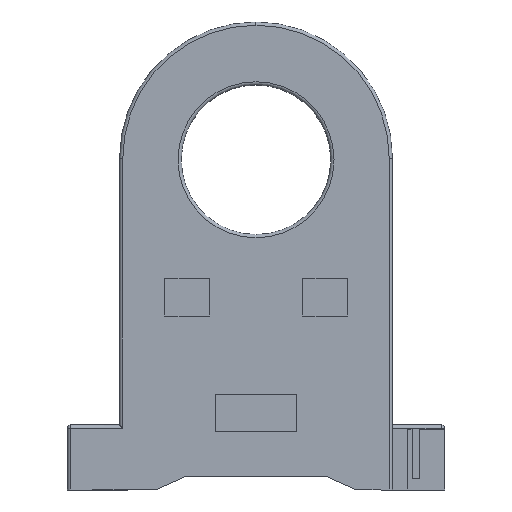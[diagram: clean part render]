
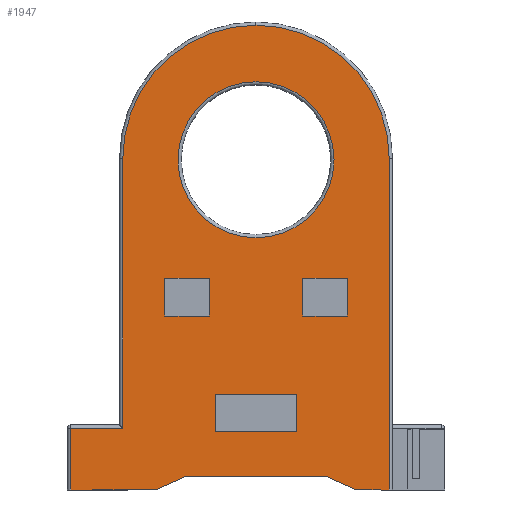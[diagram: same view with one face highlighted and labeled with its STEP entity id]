
A CAD part, left-side view. The second image highlights one B-rep face of the part: STEP entity #1947.
In plain terms, the highlighted planar face has unit normal (-1, 0, 0).
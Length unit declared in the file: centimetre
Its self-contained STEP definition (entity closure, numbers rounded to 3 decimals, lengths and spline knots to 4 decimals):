
#96=CIRCLE('',#5523,2.05);
#97=CIRCLE('',#5524,2.05);
#98=CIRCLE('',#5525,1.2);
#785=VERTEX_POINT('',#7958);
#786=VERTEX_POINT('',#7960);
#788=VERTEX_POINT('',#7966);
#790=VERTEX_POINT('',#7972);
#793=VERTEX_POINT('',#7983);
#794=VERTEX_POINT('',#7985);
#796=VERTEX_POINT('',#7991);
#798=VERTEX_POINT('',#7997);
#799=VERTEX_POINT('',#8005);
#800=VERTEX_POINT('',#8006);
#801=VERTEX_POINT('',#8008);
#802=VERTEX_POINT('',#8010);
#803=VERTEX_POINT('',#8012);
#804=VERTEX_POINT('',#8014);
#805=VERTEX_POINT('',#8016);
#806=VERTEX_POINT('',#8018);
#807=VERTEX_POINT('',#8020);
#808=VERTEX_POINT('',#8022);
#809=VERTEX_POINT('',#8024);
#810=VERTEX_POINT('',#8026);
#811=VERTEX_POINT('',#8028);
#812=VERTEX_POINT('',#8029);
#813=VERTEX_POINT('',#8031);
#814=VERTEX_POINT('',#8033);
#990=EDGE_CURVE('',#786,#785,#3654,.T.);
#994=EDGE_CURVE('',#785,#788,#3658,.T.);
#997=EDGE_CURVE('',#788,#790,#3661,.T.);
#999=EDGE_CURVE('',#790,#786,#3663,.T.);
#1002=EDGE_CURVE('',#794,#793,#3666,.T.);
#1006=EDGE_CURVE('',#793,#796,#3670,.T.);
#1009=EDGE_CURVE('',#796,#798,#3673,.T.);
#1011=EDGE_CURVE('',#798,#794,#3675,.T.);
#1012=EDGE_CURVE('',#799,#800,#3676,.T.);
#1013=EDGE_CURVE('',#800,#801,#3677,.T.);
#1014=EDGE_CURVE('',#801,#802,#3678,.T.);
#1015=EDGE_CURVE('',#802,#803,#3679,.T.);
#1016=EDGE_CURVE('',#804,#803,#3680,.T.);
#1017=EDGE_CURVE('',#805,#804,#96,.T.);
#1018=EDGE_CURVE('',#806,#805,#97,.T.);
#1019=EDGE_CURVE('',#807,#806,#3681,.T.);
#1020=EDGE_CURVE('',#808,#807,#3682,.T.);
#1021=EDGE_CURVE('',#809,#808,#3683,.T.);
#1022=EDGE_CURVE('',#809,#799,#3679,.T.);
#1023=EDGE_CURVE('',#810,#810,#98,.T.);
#1024=EDGE_CURVE('',#811,#812,#3684,.T.);
#1025=EDGE_CURVE('',#812,#813,#3685,.T.);
#1026=EDGE_CURVE('',#813,#814,#3686,.T.);
#1027=EDGE_CURVE('',#814,#811,#3687,.T.);
#1399=ORIENTED_EDGE('',*,*,#1012,.T.);
#1400=ORIENTED_EDGE('',*,*,#1013,.T.);
#1401=ORIENTED_EDGE('',*,*,#1014,.T.);
#1402=ORIENTED_EDGE('',*,*,#1015,.T.);
#1403=ORIENTED_EDGE('',*,*,#1016,.F.);
#1404=ORIENTED_EDGE('',*,*,#1017,.F.);
#1405=ORIENTED_EDGE('',*,*,#1018,.F.);
#1406=ORIENTED_EDGE('',*,*,#1019,.F.);
#1407=ORIENTED_EDGE('',*,*,#1020,.F.);
#1408=ORIENTED_EDGE('',*,*,#1021,.F.);
#1409=ORIENTED_EDGE('',*,*,#1022,.T.);
#1410=ORIENTED_EDGE('',*,*,#1023,.F.);
#1411=ORIENTED_EDGE('',*,*,#1024,.T.);
#1412=ORIENTED_EDGE('',*,*,#1025,.T.);
#1413=ORIENTED_EDGE('',*,*,#1026,.T.);
#1414=ORIENTED_EDGE('',*,*,#1027,.T.);
#1415=ORIENTED_EDGE('',*,*,#1002,.T.);
#1416=ORIENTED_EDGE('',*,*,#1006,.T.);
#1417=ORIENTED_EDGE('',*,*,#1009,.T.);
#1418=ORIENTED_EDGE('',*,*,#1011,.T.);
#1419=ORIENTED_EDGE('',*,*,#990,.T.);
#1420=ORIENTED_EDGE('',*,*,#994,.T.);
#1421=ORIENTED_EDGE('',*,*,#997,.T.);
#1422=ORIENTED_EDGE('',*,*,#999,.T.);
#1703=EDGE_LOOP('',(#1399,#1400,#1401,#1402,#1403,#1404,#1405,#1406,#1407,
#1408,#1409));
#1704=EDGE_LOOP('',(#1410));
#1705=EDGE_LOOP('',(#1411,#1412,#1413,#1414));
#1706=EDGE_LOOP('',(#1415,#1416,#1417,#1418));
#1707=EDGE_LOOP('',(#1419,#1420,#1421,#1422));
#1827=FACE_BOUND('',#1703,.T.);
#1828=FACE_BOUND('',#1704,.T.);
#1829=FACE_BOUND('',#1705,.T.);
#1830=FACE_BOUND('',#1706,.T.);
#1831=FACE_BOUND('',#1707,.T.);
#1947=ADVANCED_FACE('',(#1827,#1828,#1829,#1830,#1831),#6213,.T.);
#3654=LINE('',#7959,#6058);
#3658=LINE('',#7967,#6062);
#3661=LINE('',#7973,#6065);
#3663=LINE('',#7976,#6067);
#3666=LINE('',#7984,#6070);
#3670=LINE('',#7992,#6074);
#3673=LINE('',#7998,#6077);
#3675=LINE('',#8001,#6079);
#3676=LINE('',#8004,#6080);
#3677=LINE('',#8007,#6081);
#3678=LINE('',#8009,#6082);
#3679=LINE('',#8011,#6083);
#3680=LINE('',#8013,#6084);
#3681=LINE('',#8019,#6085);
#3682=LINE('',#8021,#6086);
#3683=LINE('',#8023,#6087);
#3684=LINE('',#8027,#6088);
#3685=LINE('',#8030,#6089);
#3686=LINE('',#8032,#6090);
#3687=LINE('',#8034,#6091);
#5522=AXIS2_PLACEMENT_3D('',#8003,#6914,$);
#5523=AXIS2_PLACEMENT_3D('',#8015,#6920,#6921);
#5524=AXIS2_PLACEMENT_3D('',#8017,#6922,#6923);
#5525=AXIS2_PLACEMENT_3D('',#8025,#6927,#6928);
#6058=VECTOR('',#6883,1.);
#6062=VECTOR('',#6888,1.);
#6065=VECTOR('',#6892,1.);
#6067=VECTOR('',#6895,1.);
#6070=VECTOR('',#6900,1.);
#6074=VECTOR('',#6905,1.);
#6077=VECTOR('',#6909,1.);
#6079=VECTOR('',#6912,1.);
#6080=VECTOR('',#6915,1.);
#6081=VECTOR('',#6916,1.);
#6082=VECTOR('',#6917,1.);
#6083=VECTOR('',#6918,1.);
#6084=VECTOR('',#6919,1.);
#6085=VECTOR('',#6924,1.);
#6086=VECTOR('',#6925,1.);
#6087=VECTOR('',#6926,1.);
#6088=VECTOR('',#6929,1.);
#6089=VECTOR('',#6930,1.);
#6090=VECTOR('',#6931,1.);
#6091=VECTOR('',#6932,1.);
#6213=PLANE('',#5522);
#6883=DIRECTION('',(0.,0.,1.));
#6888=DIRECTION('',(0.,-1.,0.));
#6892=DIRECTION('',(0.,0.,-1.));
#6895=DIRECTION('',(0.,1.,0.));
#6900=DIRECTION('',(0.,0.,1.));
#6905=DIRECTION('',(0.,-1.,0.));
#6909=DIRECTION('',(0.,0.,-1.));
#6912=DIRECTION('',(0.,1.,0.));
#6914=DIRECTION('',(-1.,0.,0.));
#6915=DIRECTION('',(0.,-0.914,0.406));
#6916=DIRECTION('',(0.,-1.,0.));
#6917=DIRECTION('',(0.,-0.914,-0.406));
#6918=DIRECTION('',(0.,-1.,0.));
#6919=DIRECTION('',(0.,0.,-1.));
#6920=DIRECTION('',(1.,0.,0.));
#6921=DIRECTION('',(0.,-1.45,1.45));
#6922=DIRECTION('',(1.,0.,0.));
#6923=DIRECTION('',(0.,1.45,1.45));
#6924=DIRECTION('',(0.,0.,1.));
#6925=DIRECTION('',(0.,-1.,0.));
#6926=DIRECTION('',(0.,0.,1.));
#6927=DIRECTION('',(-1.,0.,0.));
#6928=DIRECTION('',(0.,0.,-1.2));
#6929=DIRECTION('',(0.,0.,1.));
#6930=DIRECTION('',(0.,-1.,0.));
#6931=DIRECTION('',(0.,0.,-1.));
#6932=DIRECTION('',(0.,1.,0.));
#7958=CARTESIAN_POINT('',(-2.2,2.1778,3.2567));
#7959=CARTESIAN_POINT('',(-2.2,2.1778,1.4833));
#7960=CARTESIAN_POINT('',(-2.2,2.1778,2.6767));
#7966=CARTESIAN_POINT('',(-2.2,1.4978,3.2567));
#7967=CARTESIAN_POINT('',(-2.2,3.6189,3.2567));
#7972=CARTESIAN_POINT('',(-2.2,1.4978,2.6767));
#7973=CARTESIAN_POINT('',(-2.2,1.4978,1.4833));
#7976=CARTESIAN_POINT('',(-2.2,3.6189,2.6767));
#7983=CARTESIAN_POINT('',(-2.2,4.301,3.2567));
#7984=CARTESIAN_POINT('',(-2.2,4.301,1.4833));
#7985=CARTESIAN_POINT('',(-2.2,4.301,2.6767));
#7991=CARTESIAN_POINT('',(-2.2,3.621,3.2567));
#7992=CARTESIAN_POINT('',(-2.2,4.6805,3.2567));
#7997=CARTESIAN_POINT('',(-2.2,3.621,2.6767));
#7998=CARTESIAN_POINT('',(-2.2,3.621,1.4833));
#8001=CARTESIAN_POINT('',(-2.2,4.6805,2.6767));
#8003=CARTESIAN_POINT('',(-2.2,5.4,0.));
#8004=CARTESIAN_POINT('',(-2.2,4.7341,-0.1263));
#8005=CARTESIAN_POINT('',(-2.2,4.45,0.));
#8006=CARTESIAN_POINT('',(-2.2,4.,0.2));
#8007=CARTESIAN_POINT('',(-2.2,4.15,0.2));
#8008=CARTESIAN_POINT('',(-2.2,1.8,0.2));
#8009=CARTESIAN_POINT('',(-2.2,3.1535,0.8015));
#8010=CARTESIAN_POINT('',(-2.2,1.35,0.));
#8011=CARTESIAN_POINT('',(-2.2,5.8,0.));
#8012=CARTESIAN_POINT('',(-2.2,0.85,0.));
#8013=CARTESIAN_POINT('',(-2.2,0.85,0.1));
#8014=CARTESIAN_POINT('',(-2.2,0.85,5.1));
#8015=CARTESIAN_POINT('',(-2.2,2.9,5.1));
#8016=CARTESIAN_POINT('',(-2.2,2.9,7.15));
#8017=CARTESIAN_POINT('',(-2.2,2.9,5.1));
#8018=CARTESIAN_POINT('',(-2.2,4.95,5.1));
#8019=CARTESIAN_POINT('',(-2.2,4.95,0.));
#8020=CARTESIAN_POINT('',(-2.2,4.95,0.95));
#8021=CARTESIAN_POINT('',(-2.2,4.15,0.95));
#8022=CARTESIAN_POINT('',(-2.2,5.75,0.95));
#8023=CARTESIAN_POINT('',(-2.2,5.75,0.));
#8024=CARTESIAN_POINT('',(-2.2,5.75,0.));
#8025=CARTESIAN_POINT('',(-2.2,2.9,5.08));
#8026=CARTESIAN_POINT('',(-2.2,2.9,6.28));
#8027=CARTESIAN_POINT('',(-2.2,3.525,0.5938));
#8028=CARTESIAN_POINT('',(-2.2,3.525,0.9));
#8029=CARTESIAN_POINT('',(-2.2,3.525,1.475));
#8030=CARTESIAN_POINT('',(-2.2,4.15,1.475));
#8031=CARTESIAN_POINT('',(-2.2,2.275,1.475));
#8032=CARTESIAN_POINT('',(-2.2,2.275,0.5938));
#8033=CARTESIAN_POINT('',(-2.2,2.275,0.9));
#8034=CARTESIAN_POINT('',(-2.2,4.15,0.9));
